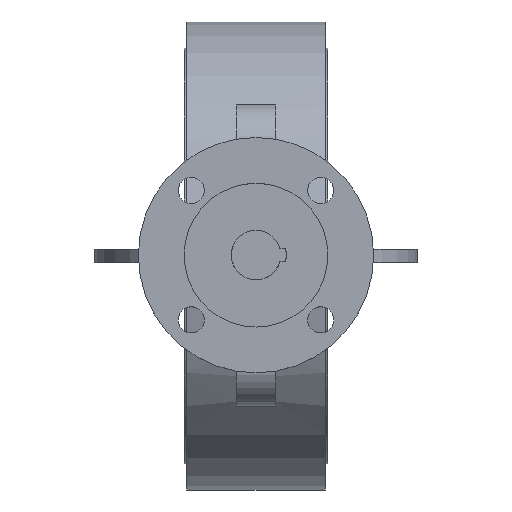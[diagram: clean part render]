
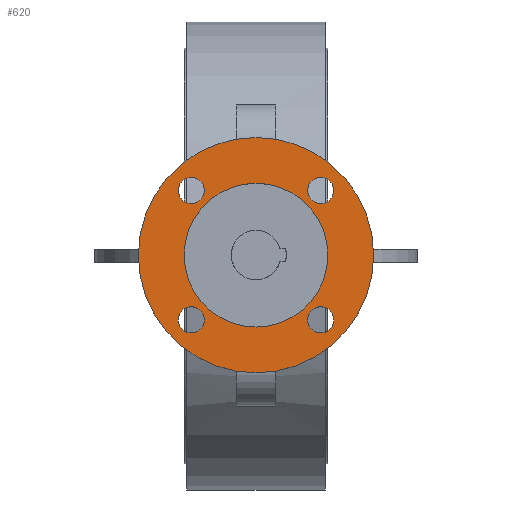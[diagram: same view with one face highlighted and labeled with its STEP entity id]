
A CAD part, top view. The second image highlights one B-rep face of the part: STEP entity #620.
In plain terms, the highlighted planar face has unit normal (0, 0, 1).
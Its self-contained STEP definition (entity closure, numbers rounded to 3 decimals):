
#620=ADVANCED_FACE('',(#1381,#1383,#1385,#1387,#1389,#1391),#1393,.T.);
#1381=FACE_BOUND('',#1382,.T.);
#1382=EDGE_LOOP('',(#1876));
#1383=FACE_BOUND('',#1384,.T.);
#1384=EDGE_LOOP('',(#1877));
#1385=FACE_BOUND('',#1386,.T.);
#1386=EDGE_LOOP('',(#1878));
#1387=FACE_BOUND('',#1388,.T.);
#1388=EDGE_LOOP('',(#1879));
#1389=FACE_BOUND('',#1390,.T.);
#1390=EDGE_LOOP('',(#1880));
#1391=FACE_BOUND('',#1392,.T.);
#1392=EDGE_LOOP('',(#1881));
#1393=PLANE('',#1394);
#1394=AXIS2_PLACEMENT_3D('',#1395,#1396,#1397);
#1395=CARTESIAN_POINT('',(0.,0.,183.));
#1396=DIRECTION('',(0.,0.,1.));
#1397=DIRECTION('',(0.,1.,0.));
#1876=ORIENTED_EDGE('',*,*,#2122,.F.);
#1877=ORIENTED_EDGE('',*,*,#2123,.T.);
#1878=ORIENTED_EDGE('',*,*,#2124,.T.);
#1879=ORIENTED_EDGE('',*,*,#2125,.T.);
#1880=ORIENTED_EDGE('',*,*,#2141,.T.);
#1881=ORIENTED_EDGE('',*,*,#2126,.T.);
#2122=EDGE_CURVE('',#2425,#2425,#2426,.T.);
#2123=EDGE_CURVE('',#2427,#2427,#2428,.F.);
#2124=EDGE_CURVE('',#2429,#2429,#2430,.F.);
#2125=EDGE_CURVE('',#2431,#2431,#2432,.F.);
#2126=EDGE_CURVE('',#2433,#2433,#2434,.F.);
#2141=EDGE_CURVE('',#2463,#2463,#2464,.T.);
#2425=VERTEX_POINT('',#4328);
#2426=CIRCLE('',#4329,45.);
#2427=VERTEX_POINT('',#4333);
#2428=CIRCLE('',#4334,5.);
#2429=VERTEX_POINT('',#4338);
#2430=CIRCLE('',#4339,5.);
#2431=VERTEX_POINT('',#4343);
#2432=CIRCLE('',#4344,5.);
#2433=VERTEX_POINT('',#4348);
#2434=CIRCLE('',#4349,5.);
#2463=VERTEX_POINT('',#4416);
#2464=CIRCLE('',#4417,27.5);
#4328=CARTESIAN_POINT('',(0.,45.,183.));
#4329=AXIS2_PLACEMENT_3D('',#4330,#4331,#4332);
#4330=CARTESIAN_POINT('',(0.,0.,183.));
#4331=DIRECTION('',(0.,0.,-1.));
#4332=DIRECTION('',(0.,1.,0.));
#4333=CARTESIAN_POINT('',(-19.749,-24.749,183.));
#4334=AXIS2_PLACEMENT_3D('',#4335,#4336,#4337);
#4335=CARTESIAN_POINT('',(-24.749,-24.749,183.));
#4336=DIRECTION('',(0.,0.,1.));
#4337=DIRECTION('',(1.,0.,0.));
#4338=CARTESIAN_POINT('',(-24.749,19.749,183.));
#4339=AXIS2_PLACEMENT_3D('',#4340,#4341,#4342);
#4340=CARTESIAN_POINT('',(-24.749,24.749,183.));
#4341=DIRECTION('',(0.,0.,1.));
#4342=DIRECTION('',(0.,-1.,0.));
#4343=CARTESIAN_POINT('',(19.749,24.749,183.));
#4344=AXIS2_PLACEMENT_3D('',#4345,#4346,#4347);
#4345=CARTESIAN_POINT('',(24.749,24.749,183.));
#4346=DIRECTION('',(0.,0.,1.));
#4347=DIRECTION('',(-1.,0.,0.));
#4348=CARTESIAN_POINT('',(24.749,-19.749,183.));
#4349=AXIS2_PLACEMENT_3D('',#4350,#4351,#4352);
#4350=CARTESIAN_POINT('',(24.749,-24.749,183.));
#4351=DIRECTION('',(0.,0.,1.));
#4352=DIRECTION('',(0.,1.,0.));
#4416=CARTESIAN_POINT('',(0.,27.5,183.));
#4417=AXIS2_PLACEMENT_3D('',#4418,#4419,#4420);
#4418=CARTESIAN_POINT('',(0.,0.,183.));
#4419=DIRECTION('',(0.,0.,-1.));
#4420=DIRECTION('',(0.,1.,0.));
